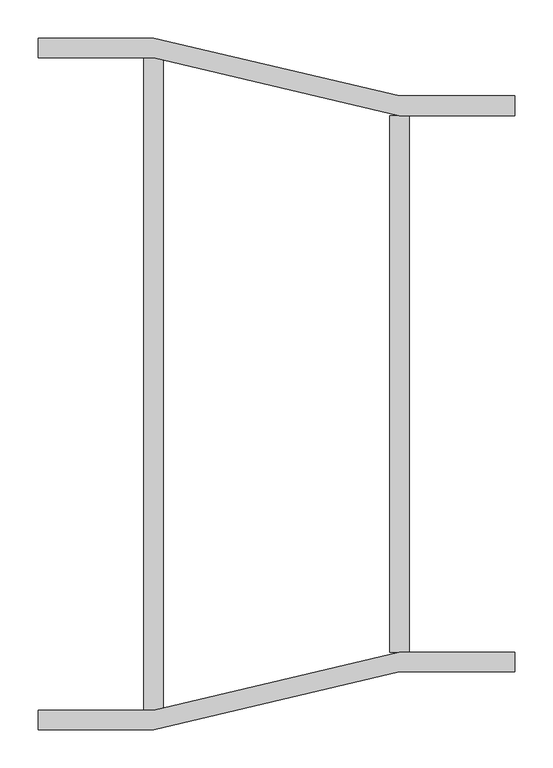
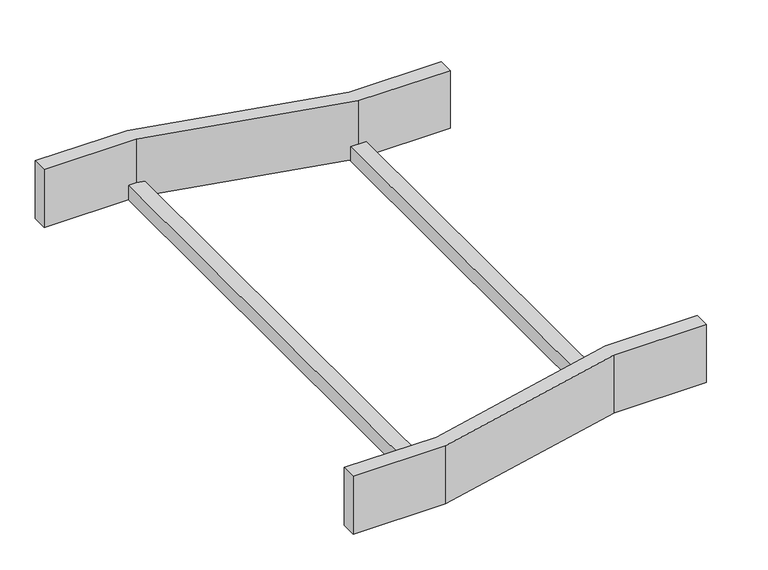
"""IFC4 building model written with IfcOpenShell, lengths in millimetres: cable carrier fitting geometry, BAKS_LD_RED_Straight reducer_RDSV : RDSVC_H100."""

from ifc_helpers import new_model, si_unit, frame, origin, place, context, project, spatial, polyline, outline, extrude, source, transform, mapped, element, save


def cable_carrier_fitting_22750d93(model_context):
    return source(origin(), model_context, "Body", "SweptSolid", [
        extrude(outline(polyline([(0.0, -450.0), (0.0, -424.6), (150.0, -424.6), (470.0, -349.6), (620.0, -349.6), (620.0, -375.0), (470.0, -375.0), (150.0, -450.0), (0.0, -450.0)])), frame((0.0, 0.0, -50.0), z_axis=(0.0, 0.0, 1.0), x_axis=(1.0, 0.0, 0.0)), (0.0, 0.0, 1.0), 100.0),
        extrude(outline(polyline([(0.0, 424.6), (0.0, 450.0), (150.0, 450.0), (470.0, 375.0), (620.0, 375.0), (620.0, 349.6), (470.0, 349.6), (150.0, 424.6), (0.0, 424.6)])), frame((0.0, 0.0, -50.0), z_axis=(0.0, 0.0, 1.0), x_axis=(1.0, 0.0, 0.0)), (0.0, 0.0, 1.0), 100.0),
        extrude(outline(polyline([(457.3, 349.6), (482.7, 349.6), (482.7, -349.6), (457.3, -349.6), (457.3, 349.6)])), frame((0.0, 0.0, -50.0), z_axis=(0.0, 0.0, 1.0), x_axis=(1.0, 0.0, 0.0)), (0.0, 0.0, 1.0), 25.4),
        extrude(outline(polyline([(137.3, 424.6), (162.7, 424.6), (162.7, -424.6), (137.3, -424.6), (137.3, 424.6)])), frame((0.0, 0.0, -50.0), z_axis=(0.0, 0.0, 1.0), x_axis=(1.0, 0.0, 0.0)), (0.0, 0.0, 1.0), 25.4),
    ])


if __name__ == "__main__":
    model = new_model("IFC4")
    model_context = context("Model", 3, world=origin())
    ifc_project = project(units=[si_unit("LENGTHUNIT", "METRE", prefix="MILLI")], contexts=[model_context])
    site = spatial("IfcSite", under=ifc_project)
    building = spatial("IfcBuilding", under=site)
    placement = place(None, origin())
    cable_carrier_fitting_shape = cable_carrier_fitting_22750d93(model_context)
    element("IfcCableCarrierFitting", 1, ObjectType="BAKS_LD_RED_Straight reducer_RDSV : RDSVC_H100", at=placement, inside=building, context=model_context, shape_type="MappedRepresentation", body=[
        mapped(cable_carrier_fitting_shape, transform((0.0, 0.0, 0.0), x_axis=(1.0, 0.0, 0.0), y_axis=(0.0, 1.0, 0.0), z_axis=(0.0, 0.0, 1.0))),
    ])
    save(model, "model.ifc")
